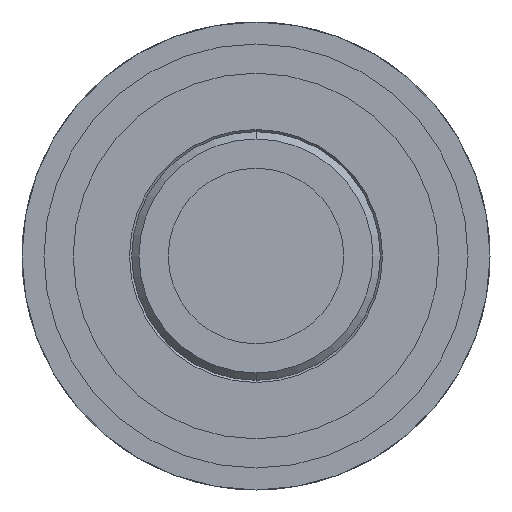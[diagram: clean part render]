
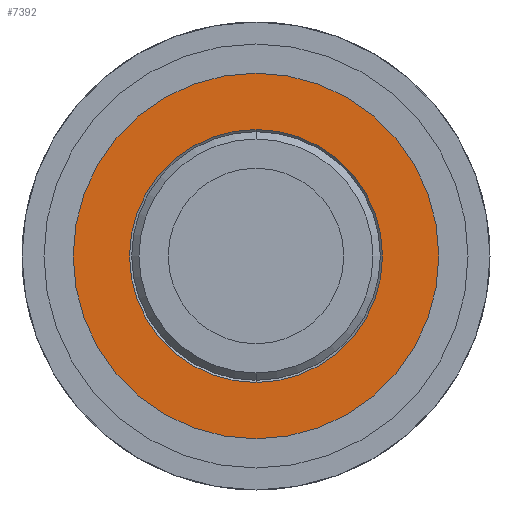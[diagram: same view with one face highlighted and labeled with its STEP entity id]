
A CAD part, front view. The second image highlights one B-rep face of the part: STEP entity #7392.
In plain terms, the highlighted planar face has unit normal (0, -1, 0) as drawn and (0, 0, 1) by its records, which use the part's own axes.
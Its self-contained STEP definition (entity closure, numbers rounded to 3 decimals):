
#153 = DIRECTION ( 'NONE',  ( 1., 0., 0. ) ) ;
#453 = ORIENTED_EDGE ( 'NONE', *, *, #8738, .F. ) ;
#546 = DIRECTION ( 'NONE',  ( 0., 0., 1. ) ) ;
#715 = DIRECTION ( 'NONE',  ( 1., 0., 0. ) ) ;
#1259 = FACE_OUTER_BOUND ( 'NONE', #10508, .T. ) ;
#1362 = DIRECTION ( 'NONE',  ( 0., 0., 1. ) ) ;
#1402 = AXIS2_PLACEMENT_3D ( 'NONE', #8141, #1362, #9285 ) ;
#3099 = CARTESIAN_POINT ( 'NONE',  ( 0., 0., 29.5 ) ) ;
#3138 = CIRCLE ( 'NONE', #7476, 12.5 ) ;
#3405 = CIRCLE ( 'NONE', #6376, 8.65 ) ;
#3907 = CIRCLE ( 'NONE', #1402, 12.5 ) ;
#3983 = CARTESIAN_POINT ( 'NONE',  ( 0., 0., 29.5 ) ) ;
#4215 = VERTEX_POINT ( 'NONE', #14675 ) ;
#4247 = DIRECTION ( 'NONE',  ( 1., 0., 0. ) ) ;
#5118 = PLANE ( 'NONE',  #11376 ) ;
#5283 = ORIENTED_EDGE ( 'NONE', *, *, #5915, .F. ) ;
#5915 = EDGE_CURVE ( 'NONE', #7870, #11453, #3405, .T. ) ;
#6266 = DIRECTION ( 'NONE',  ( 1., 0., 0. ) ) ;
#6376 = AXIS2_PLACEMENT_3D ( 'NONE', #13723, #6950, #153 ) ;
#6837 = ORIENTED_EDGE ( 'NONE', *, *, #10081, .T. ) ;
#6950 = DIRECTION ( 'NONE',  ( 0., 0., 1. ) ) ;
#7280 = FACE_BOUND ( 'NONE', #9331, .T. ) ;
#7392 = ADVANCED_FACE ( 'NONE', ( #7280, #1259 ), #5118, .T. ) ;
#7476 = AXIS2_PLACEMENT_3D ( 'NONE', #3099, #11010, #4247 ) ;
#7506 = DIRECTION ( 'NONE',  ( 0., 0., 1. ) ) ;
#7870 = VERTEX_POINT ( 'NONE', #10376 ) ;
#7884 = EDGE_CURVE ( 'NONE', #4215, #11220, #3907, .T. ) ;
#8141 = CARTESIAN_POINT ( 'NONE',  ( 0., 0., 29.5 ) ) ;
#8146 = AXIS2_PLACEMENT_3D ( 'NONE', #14284, #7506, #715 ) ;
#8738 = EDGE_CURVE ( 'NONE', #11453, #7870, #10439, .T. ) ;
#9285 = DIRECTION ( 'NONE',  ( 1., 0., 0. ) ) ;
#9331 = EDGE_LOOP ( 'NONE', ( #453, #5283 ) ) ;
#10081 = EDGE_CURVE ( 'NONE', #11220, #4215, #3138, .T. ) ;
#10309 = CARTESIAN_POINT ( 'NONE',  ( -12.5, 0., 29.5 ) ) ;
#10376 = CARTESIAN_POINT ( 'NONE',  ( -8.65, 0., 29.5 ) ) ;
#10439 = CIRCLE ( 'NONE', #8146, 8.65 ) ;
#10508 = EDGE_LOOP ( 'NONE', ( #11888, #6837 ) ) ;
#10790 = CARTESIAN_POINT ( 'NONE',  ( 8.65, 0., 29.5 ) ) ;
#11010 = DIRECTION ( 'NONE',  ( 0., 0., 1. ) ) ;
#11220 = VERTEX_POINT ( 'NONE', #10309 ) ;
#11376 = AXIS2_PLACEMENT_3D ( 'NONE', #3983, #546, #6266 ) ;
#11453 = VERTEX_POINT ( 'NONE', #10790 ) ;
#11888 = ORIENTED_EDGE ( 'NONE', *, *, #7884, .T. ) ;
#13723 = CARTESIAN_POINT ( 'NONE',  ( 0., 0., 29.5 ) ) ;
#14284 = CARTESIAN_POINT ( 'NONE',  ( 0., 0., 29.5 ) ) ;
#14675 = CARTESIAN_POINT ( 'NONE',  ( 12.5, 0., 29.5 ) ) ;
